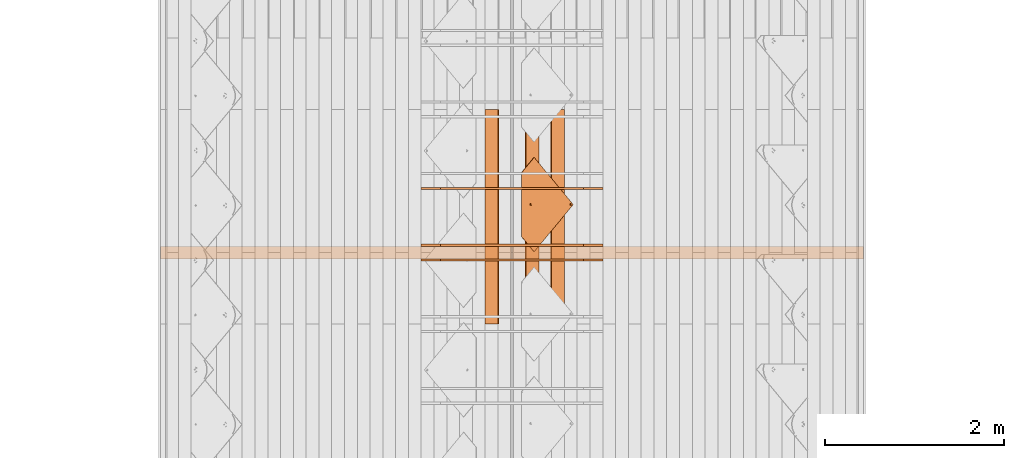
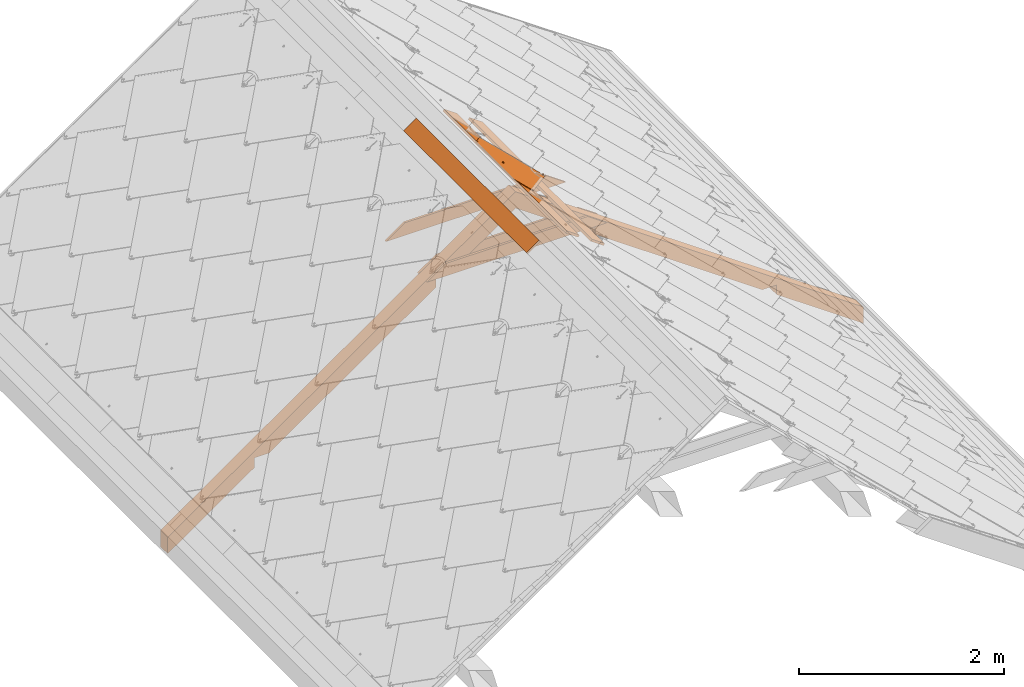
# One storey, part 59 of 151: 8 proxies, 1 element without a shape of its own.
"""IFC2X3 building model written with IfcOpenShell, lengths in millimetres."""

from ifc_helpers import new_model, entity, si_unit, converted_unit, derived_unit, direction, frame, frame_2d, origin, place, context, subcontext, project, spatial, polyline, rectangle, outline, extrude, faceted_brep, source, transform, mapped, material, material_list, type_object, type_shapes, element, aggregate, save


model = new_model("IFC2X3")

# Units and contexts
model_context = context("Model", 3, precision=0.01, world=origin(), true_north=direction((6.12303176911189e-17, 1.0)))
body_context = subcontext(model_context, "Body", "Model", "MODEL_VIEW")
ifc_project = project(units=[si_unit("LENGTHUNIT", "METRE", prefix="MILLI"), si_unit("AREAUNIT", "SQUARE_METRE"), si_unit("VOLUMEUNIT", "CUBIC_METRE"), converted_unit("PLANEANGLEUNIT", "DEGREE", entity("IfcRatioMeasure", 0.0174532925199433), si_unit("PLANEANGLEUNIT", "RADIAN"), dimensions=[0, 0, 0, 0, 0, 0, 0]), si_unit("MASSUNIT", "GRAM", prefix="KILO"), derived_unit("MASSDENSITYUNIT", [(si_unit("MASSUNIT", "GRAM", prefix="KILO"), 1), (si_unit("LENGTHUNIT", "METRE"), -3)]), si_unit("TIMEUNIT", "SECOND"), si_unit("FREQUENCYUNIT", "HERTZ"), si_unit("THERMODYNAMICTEMPERATUREUNIT", "DEGREE_CELSIUS"), derived_unit("THERMALTRANSMITTANCEUNIT", [(si_unit("MASSUNIT", "GRAM", prefix="KILO"), 1), (si_unit("THERMODYNAMICTEMPERATUREUNIT", "KELVIN"), -1), (si_unit("TIMEUNIT", "SECOND"), -3)]), derived_unit("VOLUMETRICFLOWRATEUNIT", [(si_unit("LENGTHUNIT", "METRE"), 3), (si_unit("TIMEUNIT", "SECOND"), -1)]), si_unit("ELECTRICCURRENTUNIT", "AMPERE"), si_unit("ELECTRICVOLTAGEUNIT", "VOLT"), si_unit("POWERUNIT", "WATT"), si_unit("FORCEUNIT", "NEWTON", prefix="KILO"), si_unit("ILLUMINANCEUNIT", "LUX"), si_unit("LUMINOUSFLUXUNIT", "LUMEN"), si_unit("LUMINOUSINTENSITYUNIT", "CANDELA"), derived_unit("USERDEFINED", [(si_unit("MASSUNIT", "GRAM", prefix="KILO"), -1), (si_unit("LENGTHUNIT", "METRE"), -2), (si_unit("TIMEUNIT", "SECOND"), 3), (si_unit("LUMINOUSFLUXUNIT", "LUMEN"), 1)]), derived_unit("LINEARVELOCITYUNIT", [(si_unit("LENGTHUNIT", "METRE"), 1), (si_unit("TIMEUNIT", "SECOND"), -1)]), si_unit("PRESSUREUNIT", "PASCAL"), derived_unit("USERDEFINED", [(si_unit("LENGTHUNIT", "METRE"), -2), (si_unit("MASSUNIT", "GRAM", prefix="KILO"), 1), (si_unit("TIMEUNIT", "SECOND"), -2)])], contexts=[model_context])

# Site, building, storey
site_placement = place(None, origin())
site = spatial("IfcSite", under=ifc_project, at=site_placement, Name="Default", CompositionType="ELEMENT")
building_placement = place(site_placement, origin())
building = spatial("IfcBuilding", under=site, at=building_placement, CompositionType="ELEMENT")
storey_placement = place(building_placement, origin())
storey = spatial("IfcBuildingStorey", under=building, at=storey_placement, Name="Level 1", CompositionType="ELEMENT", Elevation=0.0)

# Assembly, proxies
assembly_placement = place(storey_placement, origin())
assembly = element("IfcElementAssembly", 1, at=assembly_placement, inside=storey, Name="Structural Framing Assembly:Roof Construction Assembly", ObjectType="Structural Framing Assembly:Roof Construction Assembly", AssemblyPlace="NOTDEFINED", PredefinedType="USERDEFINED")
ifc_material_1 = material(Name="Wood - Generic - Wood For Showcase")
building_element_proxy_type_1 = type_object("IfcBuildingElementProxyType", Name="Structural Framing 1", PredefinedType="NOTDEFINED", material=ifc_material_1)
shared_shape_1 = source(origin(), body_context, "Body", "SweptSolid", [
    extrude(outline(polyline([(-929.245683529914, -1327.10037070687), (3863.25950492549, -1327.10037070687), (3975.29271103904, -1167.10037070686), (2778.93361405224, -1167.10037070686), (2713.54351952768, -1260.48710386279), (2580.17344271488, -1167.10037070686), (278.933614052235, -1167.10037070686), (213.543519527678, -1260.48710386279), (80.173442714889, -1167.10037070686), (-817.212477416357, -1167.10037070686), (-1124.13653843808, -323.833443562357), (-1257.50661525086, -230.446710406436), (-1192.11652072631, -137.059977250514), (-1979.18689675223, 2025.39810840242), (-2112.55697356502, 2118.78484155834), (-2047.16687904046, 2212.17157471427), (-2456.34578886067, 3336.38138996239), (-2568.37899497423, 3176.38138996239), (-929.245683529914, -1327.10037070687)])), frame((1206.77890726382, 3785.55080214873, 1179.90959070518), z_axis=(0.0, 1.0, 0.0), x_axis=(0.819152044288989, 0.0, -0.573576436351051)), (0.0, 0.0, 1.0), 140.0),
])
type_shapes(building_element_proxy_type_1, [shared_shape_1])
proxy_1_placement = place(assembly_placement, frame((57.4878711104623, -4800.0, 0.0)))
proxy_1 = element("IfcBuildingElementProxy", 2, at=proxy_1_placement, type_object=building_element_proxy_type_1, material=ifc_material_1, Name="Structural Framing 7:Structural Framing 1", ObjectType="Structural Framing 7:Structural Framing 1", context=body_context, shape_type="MappedRepresentation", body=[
    mapped(shared_shape_1, transform((0.0, 0.0, 0.0), scale=1.0)),
])
building_element_proxy_type_2 = type_object("IfcBuildingElementProxyType", Name="Structural Framing 15", PredefinedType="NOTDEFINED", material=ifc_material_1)
shared_shape_2 = source(origin(), body_context, "Body", "SweptSolid", [
    extrude(rectangle(XDim=24.9999999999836, YDim=174.344679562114, at=frame_2d((2.22044604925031e-13, -1.63424829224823e-13), x_axis=(1.0, 0.0))), frame((1285.35601305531, 1595.5508021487, 2760.23940055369), z_axis=(0.0, 1.0, 0.0), x_axis=(0.573576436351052, 0.0, 0.819152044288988)), (0.0, 0.0, 1.0), 2400.0),
])
type_shapes(building_element_proxy_type_2, [shared_shape_2])
proxy_2_placement = place(assembly_placement, frame((200.302671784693, -3340.0, -100.0)))
proxy_2 = element("IfcBuildingElementProxy", 3, at=proxy_2_placement, type_object=building_element_proxy_type_2, material=ifc_material_1, Name="Structural Framing 161:Structural Framing 15", ObjectType="Structural Framing 161:Structural Framing 15", context=body_context, shape_type="MappedRepresentation", body=[
    mapped(shared_shape_2, transform((0.0, 0.0, 0.0), scale=1.0)),
])
building_element_proxy_type_3 = type_object("IfcBuildingElementProxyType", Name="Structural Framing 15", PredefinedType="NOTDEFINED", material=ifc_material_1)
shared_shape_3 = source(origin(), body_context, "Body", "SweptSolid", [
    extrude(rectangle(XDim=24.9999999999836, YDim=174.344679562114, at=frame_2d((2.22044604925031e-13, -1.63424829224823e-13), x_axis=(1.0, 0.0))), frame((1285.35601305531, 1595.5508021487, 2760.23940055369), z_axis=(0.0, 1.0, 0.0), x_axis=(0.573576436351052, 0.0, 0.819152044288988)), (0.0, 0.0, 1.0), 2400.0),
])
type_shapes(building_element_proxy_type_3, [shared_shape_3])
proxy_3_placement = place(assembly_placement, frame((485.932273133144, -3340.0, -300.0)))
proxy_3 = element("IfcBuildingElementProxy", 4, at=proxy_3_placement, type_object=building_element_proxy_type_3, material=ifc_material_1, Name="Structural Framing 171:Structural Framing 15", ObjectType="Structural Framing 171:Structural Framing 15", context=body_context, shape_type="MappedRepresentation", body=[
    mapped(shared_shape_3, transform((0.0, 0.0, 0.0), scale=1.0)),
])
building_element_proxy_type_4 = type_object("IfcBuildingElementProxyType", Name="Structural Framing 15", PredefinedType="NOTDEFINED", material=ifc_material_1)
shared_shape_4 = source(origin(), body_context, "Body", "SweptSolid", [
    extrude(rectangle(XDim=24.9999999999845, YDim=174.344679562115, at=frame_2d((-1.77635683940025e-13, -4.54747350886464e-13), x_axis=(0.0, 1.0))), frame((1128.20180147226, 1595.5508021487, 2760.23940055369), z_axis=(0.0, 1.0, 0.0), x_axis=(-0.819152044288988, 0.0, -0.573576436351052)), (0.0, 0.0, 1.0), 2400.0),
])
type_shapes(building_element_proxy_type_4, [shared_shape_4])
proxy_4_placement = place(assembly_placement, frame((-85.3269295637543, -3340.0, -100.0)))
proxy_4 = element("IfcBuildingElementProxy", 5, at=proxy_4_placement, type_object=building_element_proxy_type_4, material=ifc_material_1, Name="Structural Framing 21:Structural Framing 15", ObjectType="Structural Framing 21:Structural Framing 15", context=body_context, shape_type="MappedRepresentation", body=[
    mapped(shared_shape_4, transform((0.0, 0.0, 0.0), scale=1.0)),
])
building_element_proxy_type_5 = type_object("IfcBuildingElementProxyType", Name="Structural Framing 296", PredefinedType="NOTDEFINED", material=ifc_material_1)
shared_shape_5 = source(origin(), body_context, "Body", "SweptSolid", [
    extrude(outline(polyline([(-1014.04699829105, -75.0), (1014.04699829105, -75.0), (799.824797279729, 75.0), (-799.824797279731, 75.0), (-1014.04699829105, -75.0)])), frame((1206.77890726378, 3760.55080214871, 2164.95664769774), z_axis=(0.0, 1.0, 0.0), x_axis=(-1.0, 0.0, 0.0)), (0.0, 0.0, 1.0), 24.9999999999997),
])
type_shapes(building_element_proxy_type_5, [shared_shape_5])
proxy_5_placement = place(assembly_placement, frame((57.4878711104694, -4000.0, 0.0)))
proxy_5 = element("IfcBuildingElementProxy", 6, at=proxy_5_placement, type_object=building_element_proxy_type_5, material=ifc_material_1, Name="Structural Framing 305:Structural Framing 296", ObjectType="Structural Framing 305:Structural Framing 296", context=body_context, shape_type="MappedRepresentation", body=[
    mapped(shared_shape_5, transform((0.0, 0.0, 0.0), scale=1.0)),
])
building_element_proxy_type_6 = type_object("IfcBuildingElementProxyType", Name="Structural Framing 296", PredefinedType="NOTDEFINED", material=ifc_material_1)
shared_shape_6 = source(origin(), body_context, "Body", "SweptSolid", [
    extrude(outline(polyline([(-1014.04699829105, -75.0), (1014.04699829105, -75.0), (799.824797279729, 75.0), (-799.824797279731, 75.0), (-1014.04699829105, -75.0)])), frame((1206.77890726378, 3760.55080214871, 2164.95664769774), z_axis=(0.0, 1.0, 0.0), x_axis=(-1.0, 0.0, 0.0)), (0.0, 0.0, 1.0), 24.9999999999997),
])
type_shapes(building_element_proxy_type_6, [shared_shape_6])
proxy_6_placement = place(assembly_placement, frame((57.4878711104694, -4800.0, 0.0)))
proxy_6 = element("IfcBuildingElementProxy", 7, at=proxy_6_placement, type_object=building_element_proxy_type_6, material=ifc_material_1, Name="Structural Framing 307:Structural Framing 296", ObjectType="Structural Framing 307:Structural Framing 296", context=body_context, shape_type="MappedRepresentation", body=[
    mapped(shared_shape_6, transform((0.0, 0.0, 0.0), scale=1.0)),
])
building_element_proxy_type_7 = type_object("IfcBuildingElementProxyType", Name="Structural Framing 296", PredefinedType="NOTDEFINED", material=ifc_material_1)
shared_shape_7 = source(origin(), body_context, "Body", "SweptSolid", [
    extrude(outline(polyline([(-1014.04699829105, -75.0), (1014.04699829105, -75.0), (799.824797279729, 75.0), (-799.824797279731, 75.0), (-1014.04699829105, -75.0)])), frame((1206.77890726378, 2325.55080214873, 2164.95664769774), z_axis=(0.0, 1.0, 0.0), x_axis=(-1.0, 0.0, 0.0)), (0.0, 0.0, 1.0), 25.0),
])
type_shapes(building_element_proxy_type_7, [shared_shape_7])
proxy_7_placement = place(assembly_placement, frame((57.4878711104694, -3200.0, 0.0)))
proxy_7 = element("IfcBuildingElementProxy", 8, at=proxy_7_placement, type_object=building_element_proxy_type_7, material=ifc_material_1, Name="Structural Framing 308:Structural Framing 296", ObjectType="Structural Framing 308:Structural Framing 296", context=body_context, shape_type="MappedRepresentation", body=[
    mapped(shared_shape_7, transform((0.0, 0.0, 0.0), scale=1.0)),
])
aggregate(assembly, [proxy_1, proxy_2, proxy_3, proxy_4, proxy_5, proxy_6, proxy_7])

# Proxy
ifc_material_2 = material(Name="Rubber - Sunstyle - Black")
ifc_material_3 = material(Name="Glass - Sunstyle - Tainted Black")
ifc_material_list_1 = material_list([ifc_material_2, ifc_material_3])
ifc_material_list_2 = material_list([ifc_material_2, ifc_material_3])
building_element_proxy_type_8 = type_object("IfcBuildingElementProxyType", Name="Shingle Top - Black", PredefinedType="NOTDEFINED", material=ifc_material_list_2)
shared_shape_8 = source(origin(), body_context, "Body", "Brep", [
    faceted_brep([(-518.396436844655, -96.9865733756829, 16.4476231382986), (-518.396436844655, -96.9614556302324, 17.9474128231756), (-526.881123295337, -88.4767691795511, 17.8053154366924), (-526.881123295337, -88.5018869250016, 16.3055257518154), (-376.996804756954, 61.3404039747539, 13.7960402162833), (-368.512118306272, 52.8557175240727, 13.9381376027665), (-376.996804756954, 61.3655217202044, 15.2958299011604), (-368.512118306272, 52.8808352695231, 15.4379272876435)], [[[0, 1, 2, 3]], [[0, 3, 4, 5]], [[3, 2, 6, 4]], [[2, 1, 7, 6]], [[1, 0, 5, 7]], [[5, 4, 6, 7]]]),
    faceted_brep([(0.166366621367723, -33.6374645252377, -4.47296585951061), (-5.6078362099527, -36.9707346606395, -4.4171418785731), (-5.60783620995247, -36.6024255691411, 17.5747274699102), (0.166366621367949, -33.2691554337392, 17.5189034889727), (-5.60783620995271, -43.6372749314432, -4.30549391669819), (-5.60783620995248, -43.2689658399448, 17.6863754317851), (0.166366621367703, -46.9705450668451, -4.24966993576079), (0.166366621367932, -46.6022359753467, 17.7421994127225), (5.94056945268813, -43.6372749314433, -4.30549391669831), (5.94056945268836, -43.2689658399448, 17.686375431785), (5.94056945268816, -36.9707346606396, -4.41714187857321), (5.94056945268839, -36.6024255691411, 17.5747274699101), (-8.43733754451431, -48.5381935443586, 17.774621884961), (0.16636662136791, -52.1014648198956, 17.8342978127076), (-12.0011084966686, -39.9356957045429, 17.6305514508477), (-8.43733754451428, -31.3331978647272, 17.4864810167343), (0.166366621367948, -27.7699265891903, 17.4268050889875), (8.77007078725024, -31.3331978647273, 17.4864810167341), (12.3338417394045, -39.935695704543, 17.6305514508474), (8.77007078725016, -48.5381935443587, 17.7746218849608), (-11.1578780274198, -37.6406185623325, 19.9433933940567), (-9.59010793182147, -39.8646808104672, 21.8708760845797), (0.166366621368, -32.5516055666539, 22.5035764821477), (0.166366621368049, -31.3111079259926, 21.9232298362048), (0.166366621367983, -29.1535570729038, 20.9138547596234), (0.166366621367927, -51.5454208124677, 19.1093557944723), (0.166366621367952, -50.6018442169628, 21.273060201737), (0.166366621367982, -47.1524685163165, 22.7481046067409), (0.166366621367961, -28.2829626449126, 18.7197675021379), (-6.15687907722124, -43.5022527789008, 22.6869725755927), (-6.15687907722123, -36.2018213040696, 22.5647085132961), (11.4906112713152, -42.1520387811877, 20.0189484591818), (10.0152467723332, -40.9390872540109, 21.7920079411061), (6.48961231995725, -36.2018213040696, 22.564708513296), (6.48961231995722, -43.5022527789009, 22.6869725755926), (-6.15687907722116, -43.3682243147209, 30.68986075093), (0.166366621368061, -47.0184400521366, 30.7509927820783), (0.166366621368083, -39.7180085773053, 30.6287287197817), (-6.15687907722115, -36.0677928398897, 30.5675966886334), (6.48961231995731, -43.368224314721, 30.6898607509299), (6.48961231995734, -36.0677928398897, 30.5675966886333), (0.166366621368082, -32.417577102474, 30.5064646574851), (0.166366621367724, -40.3040047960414, -4.36131789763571)], [[[0, 1, 2, 3]], [[1, 4, 5, 2]], [[4, 6, 7, 5]], [[6, 8, 9, 7]], [[8, 10, 11, 9]], [[10, 0, 3, 11]], [[12, 7, 13]], [[7, 12, 5]], [[14, 5, 12]], [[5, 14, 2]], [[15, 2, 14]], [[3, 2, 15]], [[15, 16, 3]], [[16, 17, 3]], [[11, 3, 17]], [[11, 17, 18]], [[9, 11, 18]], [[18, 19, 9]], [[7, 9, 19]], [[19, 13, 7]], [[20, 14, 12]], [[21, 22, 23, 24]], [[24, 20, 21]], [[25, 20, 12]], [[26, 27, 21]], [[15, 14, 20]], [[12, 13, 25]], [[20, 28, 15]], [[28, 20, 24]], [[21, 27, 29]], [[21, 29, 30]], [[26, 21, 20]], [[20, 25, 26]], [[15, 28, 16]], [[21, 30, 22]], [[31, 18, 17]], [[28, 31, 17]], [[32, 27, 26]], [[26, 31, 32]], [[26, 25, 31]], [[25, 19, 31]], [[17, 16, 28]], [[31, 19, 18]], [[24, 31, 28]], [[33, 34, 32]], [[23, 22, 33]], [[24, 32, 31]], [[27, 32, 34]], [[32, 23, 33]], [[19, 25, 13]], [[32, 24, 23]], [[35, 36, 37]], [[37, 38, 35]], [[36, 39, 37]], [[40, 37, 39]], [[37, 40, 41]], [[37, 41, 38]], [[42, 6, 4]], [[4, 1, 42]], [[1, 0, 42]], [[42, 8, 6]], [[0, 10, 42]], [[8, 42, 10]], [[22, 30, 38, 41]], [[30, 29, 35, 38]], [[29, 27, 36, 35]], [[27, 34, 39, 36]], [[34, 33, 40, 39]], [[33, 22, 41, 40]]]),
    faceted_brep([(0.0, -573.927138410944, 4.00636906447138), (-5.77420283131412, -577.260408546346, 4.0621930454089), (-5.77420283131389, -576.892099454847, 26.0540623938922), (0.0, -573.558829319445, 25.9982384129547), (-5.77420283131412, -583.926948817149, 4.1738410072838), (-5.7742028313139, -583.558639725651, 26.1657103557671), (0.0, -587.260218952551, 4.2296649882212), (0.0, -586.891909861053, 26.2215343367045), (5.77420283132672, -583.926948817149, 4.17384100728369), (5.77420283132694, -583.558639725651, 26.165710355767), (5.77420283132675, -577.260408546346, 4.06219304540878), (5.77420283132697, -576.892099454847, 26.0540623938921), (-8.60370416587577, -588.827867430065, 26.253956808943), (0.0, -592.391138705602, 26.3136327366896), (-12.1674751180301, -580.225369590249, 26.1098863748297), (-8.60370416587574, -571.622871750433, 25.9658159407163), (0.0, -568.059600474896, 25.9061400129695), (8.60370416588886, -571.622871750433, 25.9658159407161), (12.1674751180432, -580.225369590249, 26.1098863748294), (8.60370416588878, -588.827867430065, 26.2539568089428), (-11.3242446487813, -577.930292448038, 28.4227283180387), (-9.75647455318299, -580.154354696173, 30.3502110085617), (0.0, -572.84127945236, 30.9829114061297), (0.0, -571.600781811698, 30.4025647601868), (0.0, -569.44323095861, 29.3931896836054), (0.0, -591.835094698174, 27.5886907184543), (0.0, -590.891518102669, 29.752395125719), (0.0, -587.442142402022, 31.227439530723), (0.0, -568.572636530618, 27.1991024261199), (-6.32324569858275, -583.791926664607, 31.1663074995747), (-6.32324569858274, -576.491495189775, 31.0440434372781), (11.3242446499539, -582.441712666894, 28.4982833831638), (9.84888015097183, -581.228761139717, 30.2713428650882), (6.32324569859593, -576.491495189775, 31.044043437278), (6.32324569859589, -583.791926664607, 31.1663074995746), (-6.32324569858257, -583.657898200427, 39.169195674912), (0.0, -587.308113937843, 39.2303277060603), (0.0, -580.007682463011, 39.1080636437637), (-6.32324569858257, -576.357466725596, 39.0469316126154), (6.32324569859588, -583.657898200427, 39.1691956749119), (6.32324569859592, -576.357466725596, 39.0469316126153), (0.0, -572.70725098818, 38.9857995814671), (0.0, -580.593678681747, 4.11801702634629)], [[[0, 1, 2, 3]], [[1, 4, 5, 2]], [[4, 6, 7, 5]], [[6, 8, 9, 7]], [[8, 10, 11, 9]], [[10, 0, 3, 11]], [[12, 7, 13]], [[7, 12, 5]], [[14, 5, 12]], [[5, 14, 2]], [[15, 2, 14]], [[3, 2, 15]], [[15, 16, 3]], [[16, 17, 3]], [[11, 3, 17]], [[11, 17, 18]], [[9, 11, 18]], [[18, 19, 9]], [[7, 9, 19]], [[19, 13, 7]], [[20, 14, 12]], [[21, 22, 23, 24]], [[24, 20, 21]], [[25, 20, 12]], [[26, 27, 21]], [[15, 14, 20]], [[12, 13, 25]], [[20, 28, 15]], [[28, 20, 24]], [[21, 27, 29]], [[21, 29, 30]], [[26, 21, 20]], [[20, 25, 26]], [[15, 28, 16]], [[21, 30, 22]], [[31, 18, 17]], [[28, 31, 17]], [[32, 27, 26]], [[26, 31, 32]], [[26, 25, 31]], [[25, 19, 31]], [[17, 16, 28]], [[31, 19, 18]], [[24, 31, 28]], [[33, 34, 32]], [[23, 22, 33]], [[24, 32, 31]], [[27, 32, 34]], [[32, 23, 33]], [[19, 25, 13]], [[32, 24, 23]], [[35, 36, 37]], [[37, 38, 35]], [[36, 39, 37]], [[40, 37, 39]], [[37, 40, 41]], [[37, 41, 38]], [[42, 6, 4]], [[4, 1, 42]], [[1, 0, 42]], [[42, 8, 6]], [[0, 10, 42]], [[8, 42, 10]], [[22, 30, 38, 41]], [[30, 29, 35, 38]], [[29, 27, 36, 35]], [[27, 34, 39, 36]], [[34, 33, 40, 39]], [[33, 22, 41, 40]]]),
    faceted_brep([(518.482751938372, -96.8754983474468, 17.9260478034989), (526.967438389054, -88.3908118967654, 17.7839504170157), (526.967438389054, -88.3656941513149, 19.2837401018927), (518.482751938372, -96.8503806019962, 19.4258374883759), (349.749400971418, 71.8105397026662, 15.1009763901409), (358.234087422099, 80.2952261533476, 14.9588790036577), (358.234087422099, 80.3203438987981, 16.4586686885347), (349.749400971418, 71.8356574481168, 16.6007660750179)], [[[0, 1, 2, 3]], [[1, 0, 4, 5]], [[2, 1, 5, 6]], [[3, 2, 6, 7]], [[0, 3, 7, 4]], [[4, 7, 6, 5]]]),
    faceted_brep([(358.234087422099, 80.2952261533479, 14.9588790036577), (6.94661128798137, -35.8890860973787, 16.9046771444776), (7.74581466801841, -37.8182632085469, 16.9369860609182), (5.67526230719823, -34.2324641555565, 16.8769328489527), (8.01840805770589, -39.8885252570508, 16.9716577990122), (7.74581466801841, -41.9587873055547, 17.0063295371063), (6.94661128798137, -43.8879644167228, 17.0386384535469), (526.967438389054, -88.3908118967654, 17.7839504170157), (4.01840805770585, -32.9612934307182, 16.855643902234), (2.08896041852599, -32.1622021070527, 16.8422611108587), (0.0184080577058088, -31.8896469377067, 16.8376964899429), (-358.233442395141, 80.2952261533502, 14.9588790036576), (-2.05214430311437, -32.1622021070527, 16.8422611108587), (-3.98159194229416, -32.9612934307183, 16.855643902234), (-5.63844619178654, -34.2324641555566, 16.8769328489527), (-6.90979517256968, -35.8890860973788, 16.9046771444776), (-7.70899855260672, -37.8182632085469, 16.9369860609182), (-7.98159194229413, -39.8885252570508, 16.9716577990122), (-7.70899855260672, -41.9587873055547, 17.0063295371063), (-6.90979517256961, -43.8879644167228, 17.0386384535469), (-526.966793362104, -88.390811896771, 17.7839504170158), (-5.63844619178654, -45.544586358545, 17.0663827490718), (-5.6568542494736, -574.226981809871, 25.9204974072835), (-6.92820323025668, -575.883603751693, 25.9482417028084), (-7.72740661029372, -577.812780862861, 25.980550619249), (-8.0, -579.883042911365, 26.015222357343), (-7.72740661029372, -581.953304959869, 26.049894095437), (0.000322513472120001, -615.210165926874, 26.6068637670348), (7.72740661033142, -581.953304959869, 26.049894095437), (6.92820323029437, -583.882482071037, 26.0822030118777), (5.65685424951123, -585.53910401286, 26.1099473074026), (4.0, -586.810274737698, 26.1312362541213), (2.070552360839, -587.609366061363, 26.1446190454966), (0.0, -587.881921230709, 26.1491836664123), (-2.0705523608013, -587.609366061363, 26.1446190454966), (-4.0, -586.810274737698, 26.1312362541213), (-5.65685424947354, -585.53910401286, 26.1099473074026), (-6.92820323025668, -583.882482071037, 26.0822030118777), (-4.0, -572.955811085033, 25.8992084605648), (-3.98159194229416, -46.8157570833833, 17.0876716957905), (-2.07055236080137, -572.156719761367, 25.8858256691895), (-2.05214430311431, -47.614848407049, 17.1010544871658), (0.0, -571.884164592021, 25.8812610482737), (0.0184080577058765, -47.8874035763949, 17.1056191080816), (2.07055236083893, -572.156719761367, 25.8858256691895), (2.08896041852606, -47.6148484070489, 17.1010544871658), (4.0, -572.955811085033, 25.8992084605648), (4.01840805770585, -46.8157570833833, 17.0876716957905), (5.65685424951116, -574.226981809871, 25.9204974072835), (5.67526230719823, -45.544586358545, 17.0663827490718), (6.92820323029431, -575.883603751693, 25.9482417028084), (7.72740661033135, -577.812780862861, 25.980550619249), (8.0, -579.883042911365, 26.015222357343), (-358.233442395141, 80.1947551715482, 8.9597202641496), (-6.90979517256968, -35.9895570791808, 10.9055184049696), (-7.70899855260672, -37.9187341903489, 10.9378273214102), (-5.63844619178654, -34.3329351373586, 10.8777741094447), (-7.98159194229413, -39.9889962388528, 10.9724990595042), (-7.70899855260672, -42.0592582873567, 11.0071707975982), (-6.90979517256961, -43.9884353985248, 11.0394797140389), (-526.966793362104, -88.4912828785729, 11.7847916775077), (-3.98159194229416, -33.0617644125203, 10.856485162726), (-2.05214430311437, -32.2626730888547, 10.8431023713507), (0.0184080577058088, -31.9901179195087, 10.8385377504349), (358.234087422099, 80.1947551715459, 8.95972026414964), (2.08896041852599, -32.2626730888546, 10.8431023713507), (4.01840805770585, -33.0617644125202, 10.856485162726), (5.67526230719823, -34.3329351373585, 10.8777741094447), (6.94661128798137, -35.9895570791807, 10.9055184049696), (7.74581466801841, -37.9187341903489, 10.9378273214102), (8.01840805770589, -39.9889962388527, 10.9724990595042), (7.74581466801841, -42.0592582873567, 11.0071707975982), (6.94661128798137, -43.9884353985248, 11.0394797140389), (526.967438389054, -88.4912828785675, 11.7847916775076), (5.67526230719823, -45.645057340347, 11.0672240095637), (5.65685424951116, -574.327452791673, 19.9213386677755), (6.92820323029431, -575.984074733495, 19.9490829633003), (7.72740661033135, -577.913251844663, 19.981391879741), (8.0, -579.983513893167, 20.016063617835), (7.72740661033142, -582.053775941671, 20.050735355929), (0.000322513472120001, -615.310636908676, 20.6077050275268), (-7.72740661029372, -582.053775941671, 20.050735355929), (-6.92820323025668, -583.982953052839, 20.0830442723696), (-5.65685424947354, -585.639574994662, 20.1107885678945), (-4.0, -586.9107457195, 20.1320775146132), (-2.0705523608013, -587.709837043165, 20.1454603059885), (0.0, -587.982392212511, 20.1500249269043), (2.070552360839, -587.709837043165, 20.1454603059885), (4.0, -586.9107457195, 20.1320775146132), (5.65685424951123, -585.639574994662, 20.1107885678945), (6.92820323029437, -583.982953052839, 20.0830442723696), (4.01840805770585, -46.9162280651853, 11.0885129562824), (4.0, -573.056282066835, 19.9000497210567), (2.08896041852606, -47.7153193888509, 11.1018957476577), (2.07055236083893, -572.257190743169, 19.8866669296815), (0.0184080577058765, -47.9878745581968, 11.1064603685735), (0.0, -571.984635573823, 19.8821023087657), (-2.05214430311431, -47.7153193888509, 11.1018957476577), (-2.07055236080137, -572.257190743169, 19.8866669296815), (-3.98159194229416, -46.9162280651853, 11.0885129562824), (-4.0, -573.056282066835, 19.9000497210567), (-5.63844619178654, -45.645057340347, 11.0672240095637), (-5.6568542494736, -574.327452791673, 19.9213386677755), (-6.92820323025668, -575.984074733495, 19.9490829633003), (-7.72740661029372, -577.913251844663, 19.981391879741), (-8.0, -579.983513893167, 20.016063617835)], [[[0, 1, 2]], [[1, 0, 3]], [[0, 2, 4]], [[4, 5, 0]], [[5, 6, 0]], [[7, 0, 6]], [[8, 3, 0]], [[9, 8, 0]], [[10, 9, 0]], [[0, 11, 10]], [[12, 10, 11]], [[13, 12, 11]], [[14, 13, 11]], [[11, 15, 14]], [[15, 11, 16]], [[16, 11, 17]], [[11, 18, 17]], [[18, 11, 19]], [[11, 20, 19]], [[19, 20, 21]], [[20, 22, 21]], [[23, 22, 20]], [[24, 23, 20]], [[24, 20, 25]], [[26, 25, 20]], [[27, 26, 20]], [[7, 28, 27]], [[29, 27, 28]], [[27, 29, 30]], [[30, 31, 27]], [[31, 32, 27]], [[27, 32, 33]], [[27, 33, 34]], [[34, 35, 27]], [[27, 35, 36]], [[36, 37, 27]], [[37, 26, 27]], [[38, 21, 22]], [[38, 39, 21]], [[38, 40, 39]], [[40, 41, 39]], [[40, 42, 41]], [[41, 42, 43]], [[44, 43, 42]], [[44, 45, 43]], [[45, 44, 46]], [[46, 47, 45]], [[46, 48, 47]], [[48, 49, 47]], [[50, 7, 48]], [[48, 7, 49]], [[7, 50, 51]], [[7, 51, 52]], [[52, 28, 7]], [[7, 6, 49]], [[53, 54, 55]], [[54, 53, 56]], [[53, 55, 57]], [[58, 53, 57]], [[59, 53, 58]], [[60, 53, 59]], [[61, 56, 53]], [[62, 61, 53]], [[53, 63, 62]], [[63, 53, 64]], [[65, 63, 64]], [[66, 65, 64]], [[64, 67, 66]], [[67, 64, 68]], [[68, 64, 69]], [[70, 69, 64]], [[71, 70, 64]], [[72, 71, 64]], [[72, 64, 73]], [[72, 73, 74]], [[74, 73, 75]], [[73, 76, 75]], [[76, 73, 77]], [[77, 73, 78]], [[79, 78, 73]], [[79, 73, 80]], [[60, 81, 80]], [[80, 81, 82]], [[80, 82, 83]], [[83, 84, 80]], [[84, 85, 80]], [[85, 86, 80]], [[80, 86, 87]], [[80, 87, 88]], [[80, 88, 89]], [[79, 80, 90]], [[80, 89, 90]], [[75, 91, 74]], [[75, 92, 91]], [[92, 93, 91]], [[93, 92, 94]], [[93, 94, 95]], [[96, 95, 94]], [[97, 95, 96]], [[96, 98, 97]], [[98, 99, 97]], [[98, 100, 99]], [[100, 101, 99]], [[100, 102, 101]], [[60, 101, 102]], [[103, 60, 102]], [[103, 104, 60]], [[104, 105, 60]], [[105, 81, 60]], [[59, 101, 60]], [[27, 20, 60, 80]], [[7, 27, 80, 73]], [[0, 7, 73, 64]], [[25, 105, 104, 24]], [[24, 104, 103, 23]], [[38, 22, 102, 100]], [[102, 22, 23, 103]], [[40, 38, 100, 98]], [[40, 98, 96, 42]], [[42, 96, 94, 44]], [[44, 94, 92, 46]], [[50, 48, 75, 76]], [[75, 48, 46, 92]], [[51, 50, 76, 77]], [[51, 77, 78, 52]], [[52, 78, 79, 28]], [[28, 79, 90, 29]], [[31, 30, 89, 88]], [[29, 90, 89, 30]], [[87, 32, 31, 88]], [[32, 87, 86, 33]], [[34, 33, 86, 85]], [[34, 85, 84, 35]], [[37, 36, 83, 82]], [[35, 84, 83, 36]], [[37, 82, 81, 26]], [[26, 81, 105, 25]], [[17, 57, 55, 16]], [[16, 55, 54, 15]], [[13, 14, 56, 61]], [[56, 14, 15, 54]], [[12, 13, 61, 62]], [[12, 62, 63, 10]], [[10, 63, 65, 9]], [[9, 65, 66, 8]], [[1, 3, 67, 68]], [[67, 3, 8, 66]], [[2, 1, 68, 69]], [[2, 69, 70, 4]], [[4, 70, 71, 5]], [[5, 71, 72, 6]], [[47, 49, 74, 91]], [[74, 49, 6, 72]], [[45, 47, 91, 93]], [[45, 93, 95, 43]], [[43, 95, 97, 41]], [[41, 97, 99, 39]], [[19, 21, 101, 59]], [[101, 21, 39, 99]], [[18, 19, 59, 58]], [[18, 58, 57, 17]], [[11, 0, 64, 53]], [[20, 11, 53, 60]]]),
])
type_shapes(building_element_proxy_type_8, [shared_shape_8])
proxy_8_placement = place(storey_placement, frame((1429.25691597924, -407.827106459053, 2714.99202663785), z_axis=(0.573576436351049, 0.0, 0.81915204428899), x_axis=(0.0, 1.0, 0.0)))
element("IfcBuildingElementProxy", 9, at=proxy_8_placement, inside=storey, type_object=building_element_proxy_type_8, material=ifc_material_list_1, Name="Roofing_Panels_SunStyle_Tile_Shingle-Top:Shingle Top - Black", ObjectType="Roofing_Panels_SunStyle_Tile_Shingle-Top:Shingle Top - Black", context=body_context, shape_type="MappedRepresentation", body=[
    mapped(shared_shape_8, transform((0.0, 0.0, 0.0), scale=1.0)),
])

save(model, "model.ifc")
